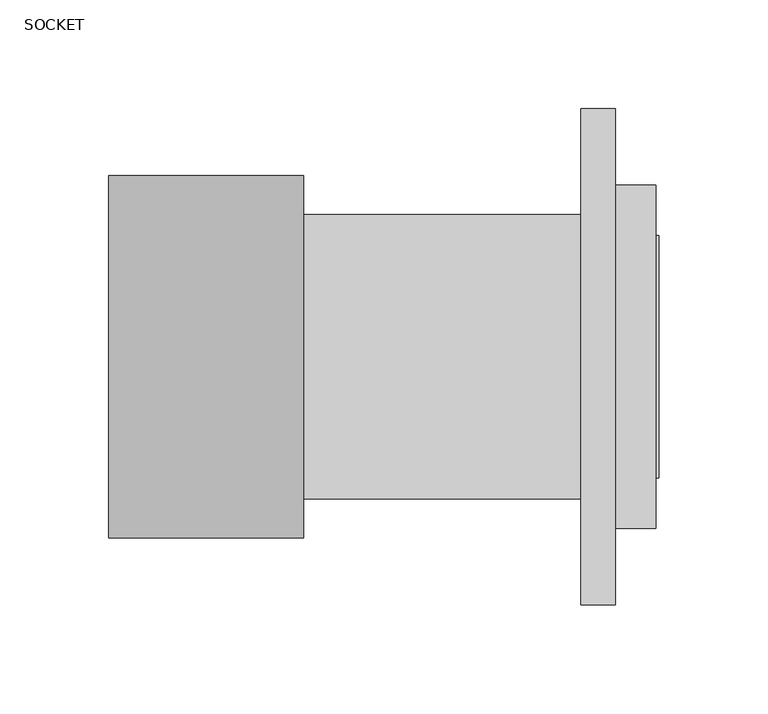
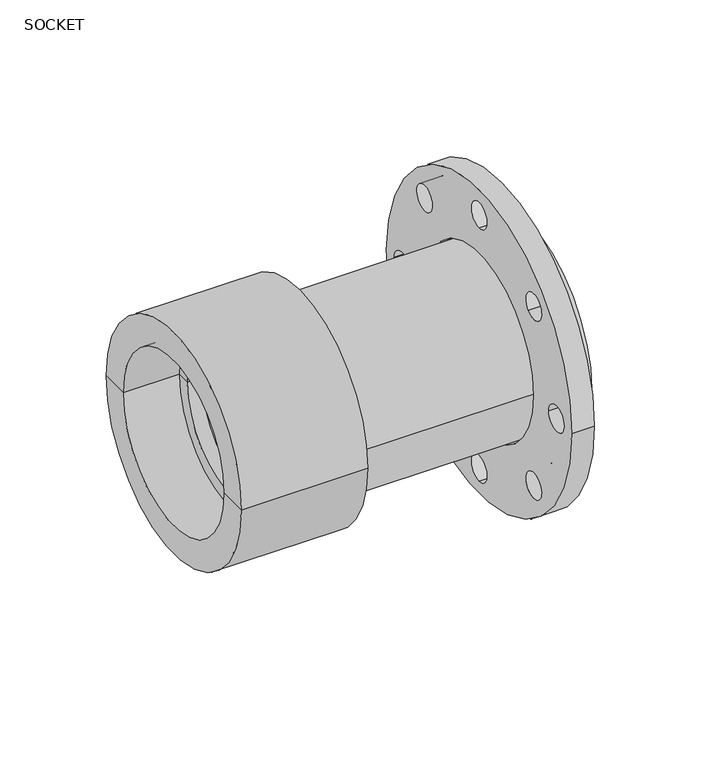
"""IFC4 building model written with IfcOpenShell, lengths in millimetres: valve geometry, Aquatherm - Flange Adapter Socket : SOCKET."""

from ifc_helpers import new_model, si_unit, point, frame, frame_2d, origin, origin_2d, place, context, project, spatial, polyline, circle_curve, trimmed, segment, composite_curve, outline, extrude, source, transform, mapped, element, save
from ifc_brep_helpers import plane_surface, cylinder_surface, revolved_surface, advanced_brep


def socket_938b3f6c(model_context):
    return source(origin(), model_context, "Body", "SolidModel", [
        advanced_brep(
        [(-233.426, -62.484, 0.0), (-233.426, 62.484, 0.0), (-233.426, 83.439, 0.0), (-233.426, -83.439, 0.0), (-193.548, -62.484, 0.0), (-193.548, 62.484, 0.0), (-193.548, -52.324, 0.0), (-193.548, 52.324, 0.0), (-183.388, -52.324, 0.0), (-183.388, 52.324, 0.0), (-183.388, -62.484, 0.0), (-183.388, 62.484, 0.0), (-143.51, -62.484, 0.0), (-143.51, 62.484, 0.0), (-143.51, -83.439, 0.0), (-143.51, 83.439, 0.0)],
        [
            (0, 1, circle_curve(frame((-233.426, 0.0, 0.0), z_axis=(1.0, 0.0, 0.0), x_axis=(0.0, 1.0, 0.0)), 62.484)),
            (1, 2),
            (2, 3, circle_curve(frame((-233.426, 0.0, 0.0), z_axis=(-1.0, 0.0, 0.0), x_axis=(0.0, 1.0, 0.0)), 83.439)),
            (3, 0),
            (1, 0, circle_curve(frame((-233.426, 0.0, 0.0), z_axis=(1.0, 0.0, 0.0), x_axis=(0.0, 1.0, 0.0)), 62.484)),
            (3, 2, circle_curve(frame((-233.426, 0.0, 0.0), z_axis=(-1.0, 0.0, 0.0), x_axis=(0.0, 1.0, 0.0)), 83.439)),
            (4, 5, circle_curve(frame((-193.548, 0.0, 0.0), z_axis=(1.0, 0.0, 0.0), x_axis=(0.0, 1.0, 0.0)), 62.484)),
            (5, 1),
            (0, 4),
            (5, 4, circle_curve(frame((-193.548, 0.0, 0.0), z_axis=(1.0, 0.0, 0.0), x_axis=(0.0, 1.0, 0.0)), 62.484)),
            (6, 7, circle_curve(frame((-193.548, 0.0, 0.0), z_axis=(1.0, 0.0, 0.0), x_axis=(0.0, 1.0, 0.0)), 52.324)),
            (7, 5),
            (4, 6),
            (7, 6, circle_curve(frame((-193.548, 0.0, 0.0), z_axis=(1.0, 0.0, 0.0), x_axis=(0.0, 1.0, 0.0)), 52.324)),
            (8, 9, circle_curve(frame((-183.388, 0.0, 0.0), z_axis=(1.0, 0.0, 0.0), x_axis=(0.0, 1.0, 0.0)), 52.324)),
            (9, 7),
            (6, 8),
            (9, 8, circle_curve(frame((-183.388, 0.0, 0.0), z_axis=(1.0, 0.0, 0.0), x_axis=(0.0, 1.0, 0.0)), 52.324)),
            (10, 11, circle_curve(frame((-183.388, 0.0, 0.0), z_axis=(1.0, 0.0, 0.0), x_axis=(0.0, 1.0, 0.0)), 62.484)),
            (11, 9),
            (8, 10),
            (11, 10, circle_curve(frame((-183.388, 0.0, 0.0), z_axis=(1.0, 0.0, 0.0), x_axis=(0.0, 1.0, 0.0)), 62.484)),
            (12, 13, circle_curve(frame((-143.51, 0.0, 0.0), z_axis=(1.0, 0.0, 0.0), x_axis=(0.0, 1.0, 0.0)), 62.484)),
            (13, 11),
            (10, 12),
            (13, 12, circle_curve(frame((-143.51, 0.0, 0.0), z_axis=(1.0, 0.0, 0.0), x_axis=(0.0, 1.0, 0.0)), 62.484)),
            (14, 15, circle_curve(frame((-143.51, 0.0, 0.0), z_axis=(1.0, 0.0, 0.0), x_axis=(0.0, 1.0, 0.0)), 83.439)),
            (15, 13),
            (12, 14),
            (15, 14, circle_curve(frame((-143.51, 0.0, 0.0), z_axis=(1.0, 0.0, 0.0), x_axis=(0.0, 1.0, 0.0)), 83.439)),
            (2, 15),
            (14, 3),
        ],
        [
            plane_surface(frame((-233.426, 0.0, 0.0), z_axis=(-1.0, 0.0, 0.0), x_axis=(0.0, 1.0, 0.0))),
            revolved_surface(polyline([(-233.426, 62.484, 0.0), (-193.548, 62.484, 0.0)]), (-249.7244022, 0.0, 0.0), (-1.0, 0.0, 0.0)),
            plane_surface(frame((-193.548, 0.0, 0.0), z_axis=(-1.0, 0.0, 0.0), x_axis=(0.0, 1.0, 0.0))),
            revolved_surface(polyline([(-193.548, 52.324, 0.0), (-183.388, 52.324, 0.0)]), (-249.7244022, 0.0, 0.0), (-1.0, 0.0, 0.0)),
            plane_surface(frame((-183.388, 0.0, 0.0), z_axis=(1.0, 0.0, 0.0), x_axis=(0.0, 1.0, 0.0))),
            revolved_surface(polyline([(-183.388, 62.484, 0.0), (-143.51, 62.484, 0.0)]), (-249.7244022, 0.0, 0.0), (-1.0, 0.0, 0.0)),
            plane_surface(frame((-143.51, 0.0, 0.0), z_axis=(1.0, 0.0, 0.0), x_axis=(0.0, 1.0, 0.0))),
            cylinder_surface(frame((-249.7244022, 0.0, 0.0), z_axis=(-1.0, 0.0, 0.0), x_axis=(0.0, 1.0, 0.0)), 83.439),
        ],
        [
            (0, [[1, 2, 3, 4]]),
            (0, [[5, -4, 6, -2]]),
            (1, [[7, 8, -1, 9]]),
            (1, [[10, -9, -5, -8]]),
            (2, [[11, 12, -7, 13]]),
            (2, [[14, -13, -10, -12]]),
            (3, [[15, 16, -11, 17]]),
            (3, [[18, -17, -14, -16]]),
            (4, [[19, 20, -15, 21]]),
            (4, [[22, -21, -18, -20]]),
            (5, [[23, 24, -19, 25]]),
            (5, [[26, -25, -22, -24]]),
            (6, [[27, 28, -23, 29]]),
            (6, [[30, -29, -26, -28]]),
            (7, [[-3, 31, -27, 32]]),
            (7, [[-6, -32, -30, -31]]),
        ],
    ),
        extrude(outline(composite_curve([segment(trimmed(circle_curve(origin_2d(), 114.3), [point((-114.3, 0.0))], [point((114.3, 0.0))], False, "CARTESIAN"), True, "CONTINUOUS"), segment(trimmed(circle_curve(origin_2d(), 114.3), [point((114.3, 0.0))], [point((-114.3, 0.0))], False, "CARTESIAN"), True, "CONTINUOUS")], self_intersect=False), holes=[composite_curve([segment(trimmed(circle_curve(origin_2d(), 66.675), [point((-66.675, 0.0))], [point((66.675, 0.0))], True, "CARTESIAN"), True, "CONTINUOUS"), segment(trimmed(circle_curve(origin_2d(), 66.675), [point((66.675, 0.0))], [point((-66.675, 0.0))], True, "CARTESIAN"), True, "CONTINUOUS")], self_intersect=False), composite_curve([segment(trimmed(circle_curve(frame_2d((95.25, 0.0)), 9.525), [point((85.725, 0.0))], [point((104.775, 0.0))], True, "CARTESIAN"), True, "CONTINUOUS"), segment(trimmed(circle_curve(frame_2d((95.25, 0.0)), 9.525), [point((104.775, 0.0))], [point((85.725, 0.0))], True, "CARTESIAN"), True, "CONTINUOUS")], self_intersect=False), composite_curve([segment(trimmed(circle_curve(frame_2d((67.3519209, -67.3519209)), 9.525), [point((60.6167288, -60.6167288))], [point((74.087113, -74.087113))], True, "CARTESIAN"), True, "CONTINUOUS"), segment(trimmed(circle_curve(frame_2d((67.3519209, -67.3519209)), 9.525), [point((74.087113, -74.087113))], [point((60.6167288, -60.6167288))], True, "CARTESIAN"), True, "CONTINUOUS")], self_intersect=False), composite_curve([segment(trimmed(circle_curve(frame_2d((67.3519209, 67.3519209)), 9.525), [point((60.6167288, 60.6167288))], [point((74.087113, 74.087113))], True, "CARTESIAN"), True, "CONTINUOUS"), segment(trimmed(circle_curve(frame_2d((67.3519209, 67.3519209)), 9.525), [point((74.087113, 74.087113))], [point((60.6167288, 60.6167288))], True, "CARTESIAN"), True, "CONTINUOUS")], self_intersect=False), composite_curve([segment(trimmed(circle_curve(frame_2d((0.0, 95.25)), 9.525), [point((0.0, 85.725))], [point((0.0, 104.775))], True, "CARTESIAN"), True, "CONTINUOUS"), segment(trimmed(circle_curve(frame_2d((0.0, 95.25)), 9.525), [point((0.0, 104.775))], [point((0.0, 85.725))], True, "CARTESIAN"), True, "CONTINUOUS")], self_intersect=False), composite_curve([segment(trimmed(circle_curve(frame_2d((-67.3519209, 67.3519209)), 9.525), [point((-60.6167288, 60.6167288))], [point((-74.087113, 74.087113))], True, "CARTESIAN"), True, "CONTINUOUS"), segment(trimmed(circle_curve(frame_2d((-67.3519209, 67.3519209)), 9.525), [point((-74.087113, 74.087113))], [point((-60.6167288, 60.6167288))], True, "CARTESIAN"), True, "CONTINUOUS")], self_intersect=False), composite_curve([segment(trimmed(circle_curve(frame_2d((-95.25, 0.0)), 9.525), [point((-85.725, 0.0))], [point((-104.775, 0.0))], True, "CARTESIAN"), True, "CONTINUOUS"), segment(trimmed(circle_curve(frame_2d((-95.25, 0.0)), 9.525), [point((-104.775, 0.0))], [point((-85.725, 0.0))], True, "CARTESIAN"), True, "CONTINUOUS")], self_intersect=False), composite_curve([segment(trimmed(circle_curve(frame_2d((-67.3519209, -67.3519209)), 9.525), [point((-60.6167288, -60.6167288))], [point((-74.087113, -74.087113))], True, "CARTESIAN"), True, "CONTINUOUS"), segment(trimmed(circle_curve(frame_2d((-67.3519209, -67.3519209)), 9.525), [point((-74.087113, -74.087113))], [point((-60.6167288, -60.6167288))], True, "CARTESIAN"), True, "CONTINUOUS")], self_intersect=False), composite_curve([segment(trimmed(circle_curve(frame_2d((0.0, -95.25)), 9.525), [point((0.0, -85.725))], [point((0.0, -104.775))], True, "CARTESIAN"), True, "CONTINUOUS"), segment(trimmed(circle_curve(frame_2d((0.0, -95.25)), 9.525), [point((0.0, -104.775))], [point((0.0, -85.725))], True, "CARTESIAN"), True, "CONTINUOUS")], self_intersect=False)]), frame((-16.002, 0.0, 0.0), z_axis=(1.0, 0.0, 0.0), x_axis=(0.0, 1.0, 0.0)), (0.0, 0.0, 1.0), 16.002),
        advanced_brep(
        [(20.066, 50.8, 0.0), (20.066, -50.8, 0.0), (20.066, -55.88, 0.0), (20.066, 55.88, 0.0), (0.0, 50.8, 0.0), (0.0, -50.8, 0.0), (0.0, 44.958, 0.0), (0.0, -44.958, 0.0), (-183.388, 44.958, 0.0), (-183.388, -44.958, 0.0), (-183.388, 65.532, 0.0), (-183.388, -65.532, 0.0), (0.0, 65.532, 0.0), (0.0, -65.532, 0.0), (0.0, 78.994, 0.0), (0.0, -78.994, 0.0), (18.542, 78.994, 0.0), (18.542, -78.994, 0.0), (18.542, 55.88, 0.0), (18.542, -55.88, 0.0)],
        [
            (0, 1, circle_curve(frame((20.066, 0.0, 0.0), z_axis=(-1.0, 0.0, 0.0), x_axis=(0.0, -1.0, 0.0)), 50.8)),
            (1, 2),
            (2, 3, circle_curve(frame((20.066, 0.0, 0.0), z_axis=(1.0, 0.0, 0.0), x_axis=(0.0, -1.0, 0.0)), 55.88)),
            (3, 0),
            (1, 0, circle_curve(frame((20.066, 0.0, 0.0), z_axis=(-1.0, 0.0, 0.0), x_axis=(0.0, -1.0, 0.0)), 50.8)),
            (3, 2, circle_curve(frame((20.066, 0.0, 0.0), z_axis=(1.0, 0.0, 0.0), x_axis=(0.0, -1.0, 0.0)), 55.88)),
            (4, 5, circle_curve(frame((0.0, 0.0, 0.0), z_axis=(-1.0, 0.0, 0.0), x_axis=(0.0, -1.0, 0.0)), 50.8)),
            (5, 1),
            (0, 4),
            (5, 4, circle_curve(frame((0.0, 0.0, 0.0), z_axis=(-1.0, 0.0, 0.0), x_axis=(0.0, -1.0, 0.0)), 50.8)),
            (6, 7, circle_curve(frame((0.0, 0.0, 0.0), z_axis=(-1.0, 0.0, 0.0), x_axis=(0.0, -1.0, 0.0)), 44.958)),
            (7, 5),
            (4, 6),
            (7, 6, circle_curve(frame((0.0, 0.0, 0.0), z_axis=(-1.0, 0.0, 0.0), x_axis=(0.0, -1.0, 0.0)), 44.958)),
            (8, 9, circle_curve(frame((-183.388, 0.0, 0.0), z_axis=(-1.0, 0.0, 0.0), x_axis=(0.0, -1.0, 0.0)), 44.958)),
            (9, 7),
            (6, 8),
            (9, 8, circle_curve(frame((-183.388, 0.0, 0.0), z_axis=(-1.0, 0.0, 0.0), x_axis=(0.0, -1.0, 0.0)), 44.958)),
            (10, 11, circle_curve(frame((-183.388, 0.0, 0.0), z_axis=(-1.0, 0.0, 0.0), x_axis=(0.0, -1.0, 0.0)), 65.532)),
            (11, 9),
            (8, 10),
            (11, 10, circle_curve(frame((-183.388, 0.0, 0.0), z_axis=(-1.0, 0.0, 0.0), x_axis=(0.0, -1.0, 0.0)), 65.532)),
            (12, 13, circle_curve(frame((0.0, 0.0, 0.0), z_axis=(-1.0, 0.0, 0.0), x_axis=(0.0, -1.0, 0.0)), 65.532)),
            (13, 11),
            (10, 12),
            (13, 12, circle_curve(frame((0.0, 0.0, 0.0), z_axis=(-1.0, 0.0, 0.0), x_axis=(0.0, -1.0, 0.0)), 65.532)),
            (14, 15, circle_curve(frame((0.0, 0.0, 0.0), z_axis=(-1.0, 0.0, 0.0), x_axis=(0.0, -1.0, 0.0)), 78.994)),
            (15, 13),
            (12, 14),
            (15, 14, circle_curve(frame((0.0, 0.0, 0.0), z_axis=(-1.0, 0.0, 0.0), x_axis=(0.0, -1.0, 0.0)), 78.994)),
            (16, 17, circle_curve(frame((18.542, 0.0, 0.0), z_axis=(-1.0, 0.0, 0.0), x_axis=(0.0, -1.0, 0.0)), 78.994)),
            (17, 15),
            (14, 16),
            (17, 16, circle_curve(frame((18.542, 0.0, 0.0), z_axis=(-1.0, 0.0, 0.0), x_axis=(0.0, -1.0, 0.0)), 78.994)),
            (18, 19, circle_curve(frame((18.542, 0.0, 0.0), z_axis=(-1.0, 0.0, 0.0), x_axis=(0.0, -1.0, 0.0)), 55.88)),
            (19, 17),
            (16, 18),
            (19, 18, circle_curve(frame((18.542, 0.0, 0.0), z_axis=(-1.0, 0.0, 0.0), x_axis=(0.0, -1.0, 0.0)), 55.88)),
            (2, 19),
            (18, 3),
        ],
        [
            plane_surface(frame((20.066, 0.0, 0.0), z_axis=(1.0, 0.0, 0.0), x_axis=(0.0, -1.0, 0.0))),
            revolved_surface(polyline([(20.06600000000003, -50.8, 0.0), (0.0, -50.8, 0.0)]), (1449.3611939, 0.0, 0.0), (1.0, 0.0, 0.0)),
            plane_surface(frame((0.0, 0.0, 0.0), z_axis=(1.0, 0.0, 0.0), x_axis=(0.0, -1.0, 0.0))),
            revolved_surface(polyline([(0.0, -44.958, 0.0), (-183.38799999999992, -44.958, 0.0)]), (1449.3611939, 0.0, 0.0), (1.0, 0.0, 0.0)),
            plane_surface(frame((-183.388, 0.0, 0.0), z_axis=(-1.0, 0.0, 0.0), x_axis=(0.0, -1.0, 0.0))),
            cylinder_surface(frame((1449.3611939, 0.0, 0.0), z_axis=(1.0, 0.0, 0.0), x_axis=(0.0, -1.0, 0.0)), 65.532),
            plane_surface(frame((0.0, 0.0, 0.0), z_axis=(-1.0, 0.0, 0.0), x_axis=(0.0, -1.0, 0.0))),
            cylinder_surface(frame((1449.3611939, 0.0, 0.0), z_axis=(1.0, 0.0, 0.0), x_axis=(0.0, -1.0, 0.0)), 78.994),
            plane_surface(frame((18.542, 0.0, 0.0), z_axis=(1.0, 0.0, 0.0), x_axis=(0.0, -1.0, 0.0))),
            cylinder_surface(frame((1449.3611939, 0.0, 0.0), z_axis=(1.0, 0.0, 0.0), x_axis=(0.0, -1.0, 0.0)), 55.88),
        ],
        [
            (0, [[1, 2, 3, 4]]),
            (0, [[5, -4, 6, -2]]),
            (1, [[7, 8, -1, 9]]),
            (1, [[10, -9, -5, -8]]),
            (2, [[11, 12, -7, 13]]),
            (2, [[14, -13, -10, -12]]),
            (3, [[15, 16, -11, 17]]),
            (3, [[18, -17, -14, -16]]),
            (4, [[19, 20, -15, 21]]),
            (4, [[22, -21, -18, -20]]),
            (5, [[23, 24, -19, 25]]),
            (5, [[26, -25, -22, -24]]),
            (6, [[27, 28, -23, 29]]),
            (6, [[30, -29, -26, -28]]),
            (7, [[31, 32, -27, 33]]),
            (7, [[34, -33, -30, -32]]),
            (8, [[35, 36, -31, 37]]),
            (8, [[38, -37, -34, -36]]),
            (9, [[-3, 39, -35, 40]]),
            (9, [[-6, -40, -38, -39]]),
        ],
    ),
    ])


if __name__ == "__main__":
    model = new_model("IFC4")
    model_context = context("Model", 3, world=origin())
    ifc_project = project(units=[si_unit("LENGTHUNIT", "METRE", prefix="MILLI")], contexts=[model_context])
    site = spatial("IfcSite", under=ifc_project)
    building = spatial("IfcBuilding", under=site)
    placement = place(None, origin())
    ifc_socket_shape = socket_938b3f6c(model_context)
    element("IfcValve", 1, ObjectType="Aquatherm - Flange Adapter Socket : SOCKET", at=placement, inside=building, context=model_context, shape_type="MappedRepresentation", body=[
        mapped(ifc_socket_shape, transform((0.0, 0.0, 0.0), x_axis=(1.0, 0.0, 0.0), y_axis=(0.0, 1.0, 0.0), z_axis=(0.0, 0.0, 1.0))),
    ])
    save(model, "model.ifc")
